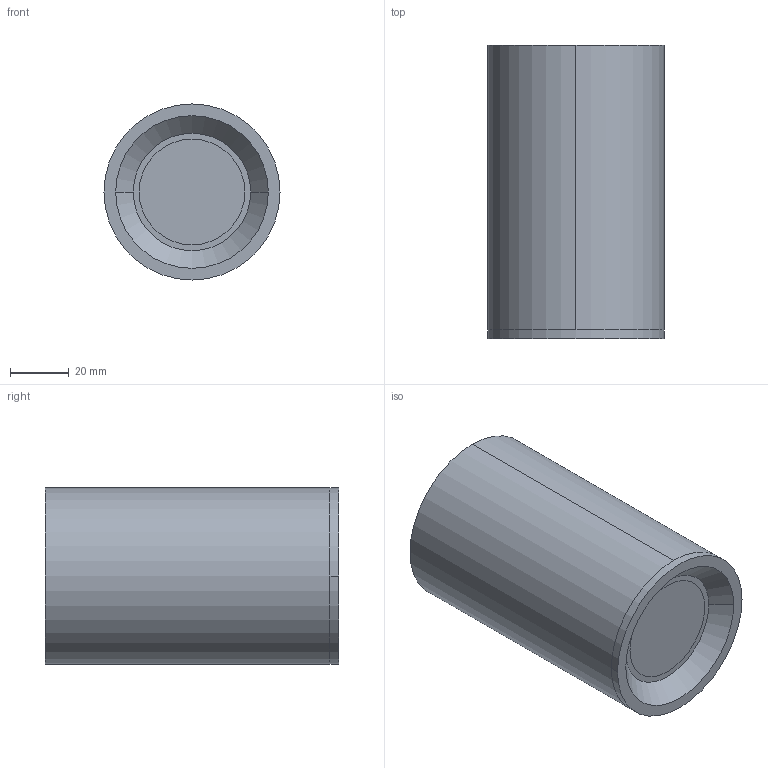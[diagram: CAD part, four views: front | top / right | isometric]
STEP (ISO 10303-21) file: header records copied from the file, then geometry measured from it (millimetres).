
FILE_DESCRIPTION (( 'STEP AP214' ), '1' );
FILE_NAME ('LATTO_T1268.STEP', '2026-03-30T08:15:26', ( '' ), ( '' ), 'SwSTEP 2.0', 'SolidWorks 2023', '' );
FILE_SCHEMA (( 'AUTOMOTIVE_DESIGN' ));
Length unit declared in the file: millimetre
Products named in the file (1): LATTO_T1268
Bounding box: 60 x 100 x 60 mm (x, y, z)
Volume: 40551.4 mm3; surface area: 50494.9 mm2
Topology: 4 solids, 4 shells, 26 faces, 48 edges, 32 vertices
Faces by surface type: cylinder 14, plane 10, cone 2
Entity records: 722 total; most frequent: DIRECTION 134, CARTESIAN_POINT 107, ORIENTED_EDGE 96, AXIS2_PLACEMENT_3D 59, EDGE_CURVE 48, CIRCLE 32, VERTEX_POINT 32, EDGE_LOOP 32
